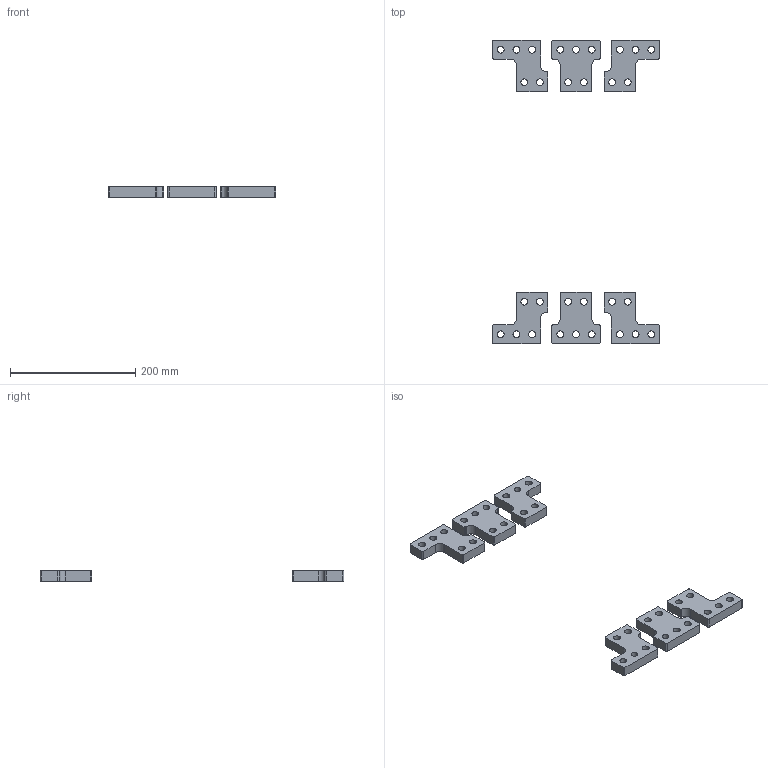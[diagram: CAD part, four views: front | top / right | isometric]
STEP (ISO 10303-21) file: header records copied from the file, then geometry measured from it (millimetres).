
FILE_DESCRIPTION (( 'STEP AP214' ), '1' );
FILE_NAME ('Ðàñøèðèòåëè ïîëþñîâ OptiMat D800, D1000, D1250, D1600 (âåðõíèå).STEP', '2023-04-26T11:38:54', ( '' ), ( '' ), 'SwSTEP 2.0', 'SolidWorks 2018', '' );
FILE_SCHEMA (( 'AUTOMOTIVE_DESIGN' ));
Length unit declared in the file: millimetre
Products named in the file (1): Ðàñøèðèòåëè ïîëþñîâ OptiMat D800, D1000, D1250, D1600 (âåðõíèå)
Bounding box: 267 x 483.8 x 16 mm (x, y, z)
Volume: 414651.2 mm3; surface area: 99101.2 mm2
Topology: 6 solids, 6 shells, 164 faces, 456 edges, 304 vertices
Faces by surface type: cylinder 108, plane 56
Entity records: 7359 total; most frequent: DIRECTION 1002, CARTESIAN_POINT 925, ORIENTED_EDGE 912, EDGE_CURVE 456, AXIS2_PLACEMENT_3D 381, VERTEX_POINT 304, VECTOR 240, LINE 240
